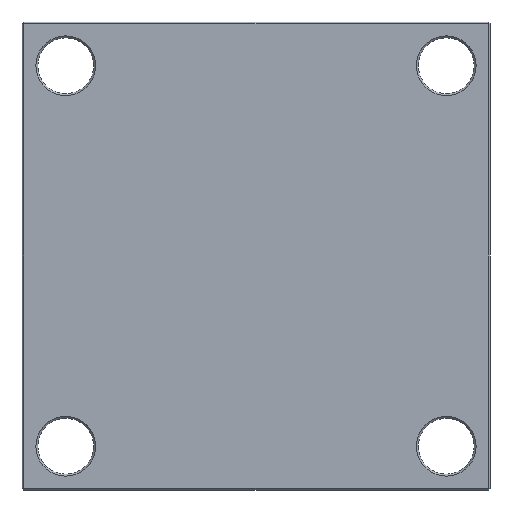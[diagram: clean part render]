
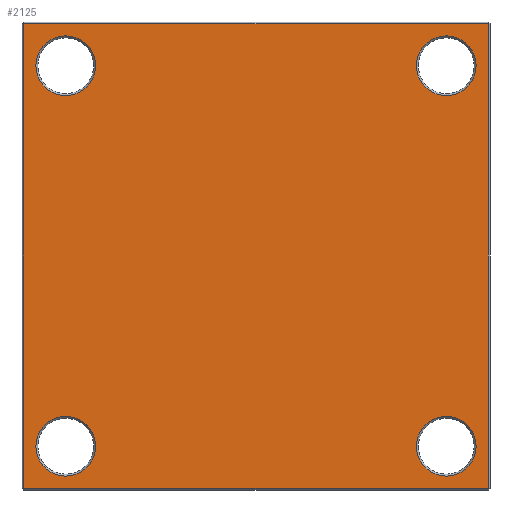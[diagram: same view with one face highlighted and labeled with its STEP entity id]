
A CAD part, front view. The second image highlights one B-rep face of the part: STEP entity #2125.
In plain terms, the highlighted planar face has unit normal (0, -1, 0).
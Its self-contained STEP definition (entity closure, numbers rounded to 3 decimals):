
#7 = EDGE_CURVE ( 'NONE', #1652, #507, #2072, .T. ) ;
#13 = EDGE_LOOP ( 'NONE', ( #623, #510, #930, #1219 ) ) ;
#46 = EDGE_LOOP ( 'NONE', ( #1112, #148 ) ) ;
#65 = EDGE_LOOP ( 'NONE', ( #178, #454 ) ) ;
#76 = EDGE_CURVE ( 'NONE', #750, #1811, #1716, .T. ) ;
#88 = AXIS2_PLACEMENT_3D ( 'NONE', #1628, #2049, #882 ) ;
#108 = CARTESIAN_POINT ( 'NONE',  ( -100., 0., 84.3 ) ) ;
#120 = EDGE_CURVE ( 'NONE', #946, #1653, #2100, .T. ) ;
#146 = VERTEX_POINT ( 'NONE', #555 ) ;
#148 = ORIENTED_EDGE ( 'NONE', *, *, #2068, .T. ) ;
#176 = DIRECTION ( 'NONE',  ( 0., 0., -1. ) ) ;
#178 = ORIENTED_EDGE ( 'NONE', *, *, #1960, .T. ) ;
#211 = CARTESIAN_POINT ( 'NONE',  ( 122., 0., 122. ) ) ;
#229 = DIRECTION ( 'NONE',  ( 0., 0., 1. ) ) ;
#260 = ORIENTED_EDGE ( 'NONE', *, *, #1631, .T. ) ;
#272 = CARTESIAN_POINT ( 'NONE',  ( 100., 0., -115.7 ) ) ;
#348 = CARTESIAN_POINT ( 'NONE',  ( 100., 0., 115.7 ) ) ;
#356 = CARTESIAN_POINT ( 'NONE',  ( -122., 0., 0. ) ) ;
#366 = ORIENTED_EDGE ( 'NONE', *, *, #924, .T. ) ;
#429 = CIRCLE ( 'NONE', #1497, 15.7 ) ;
#436 = CARTESIAN_POINT ( 'NONE',  ( 100., 0., 100. ) ) ;
#454 = ORIENTED_EDGE ( 'NONE', *, *, #2006, .T. ) ;
#457 = CARTESIAN_POINT ( 'NONE',  ( 122., 0., 0. ) ) ;
#458 = CARTESIAN_POINT ( 'NONE',  ( 0., 0., -122. ) ) ;
#474 = CIRCLE ( 'NONE', #1865, 15.7 ) ;
#482 = AXIS2_PLACEMENT_3D ( 'NONE', #1152, #1123, #1105 ) ;
#484 = AXIS2_PLACEMENT_3D ( 'NONE', #1515, #1400, #1035 ) ;
#507 = VERTEX_POINT ( 'NONE', #859 ) ;
#510 = ORIENTED_EDGE ( 'NONE', *, *, #1506, .T. ) ;
#512 = LINE ( 'NONE', #458, #1839 ) ;
#555 = CARTESIAN_POINT ( 'NONE',  ( -100., 0., -115.7 ) ) ;
#556 = FACE_OUTER_BOUND ( 'NONE', #13, .T. ) ;
#620 = DIRECTION ( 'NONE',  ( 0., 0., 1. ) ) ;
#623 = ORIENTED_EDGE ( 'NONE', *, *, #76, .T. ) ;
#667 = VECTOR ( 'NONE', #176, 1000. ) ;
#684 = AXIS2_PLACEMENT_3D ( 'NONE', #436, #1275, #1267 ) ;
#700 = ORIENTED_EDGE ( 'NONE', *, *, #120, .T. ) ;
#709 = CARTESIAN_POINT ( 'NONE',  ( 0., 0., 0. ) ) ;
#728 = DIRECTION ( 'NONE',  ( 0., 1., 0. ) ) ;
#750 = VERTEX_POINT ( 'NONE', #2155 ) ;
#775 = DIRECTION ( 'NONE',  ( 0., 1., 0. ) ) ;
#795 = CIRCLE ( 'NONE', #484, 15.7 ) ;
#809 = CARTESIAN_POINT ( 'NONE',  ( -100., 0., -100. ) ) ;
#824 = EDGE_CURVE ( 'NONE', #146, #1026, #1904, .T. ) ;
#847 = ORIENTED_EDGE ( 'NONE', *, *, #824, .T. ) ;
#859 = CARTESIAN_POINT ( 'NONE',  ( -100., 0., 115.7 ) ) ;
#882 = DIRECTION ( 'NONE',  ( 0., 0., 1. ) ) ;
#910 = EDGE_LOOP ( 'NONE', ( #700, #366 ) ) ;
#914 = DIRECTION ( 'NONE',  ( 0., 0., 1. ) ) ;
#924 = EDGE_CURVE ( 'NONE', #1653, #946, #1293, .T. ) ;
#930 = ORIENTED_EDGE ( 'NONE', *, *, #1228, .T. ) ;
#946 = VERTEX_POINT ( 'NONE', #1605 ) ;
#979 = FACE_BOUND ( 'NONE', #46, .T. ) ;
#984 = DIRECTION ( 'NONE',  ( 0., 0., 1. ) ) ;
#993 = DIRECTION ( 'NONE',  ( 0., 1., 0. ) ) ;
#1026 = VERTEX_POINT ( 'NONE', #1434 ) ;
#1031 = FACE_BOUND ( 'NONE', #65, .T. ) ;
#1035 = DIRECTION ( 'NONE',  ( 0., 0., 1. ) ) ;
#1070 = DIRECTION ( 'NONE',  ( 0., 1., 0. ) ) ;
#1105 = DIRECTION ( 'NONE',  ( 0., 0., 1. ) ) ;
#1107 = LINE ( 'NONE', #356, #667 ) ;
#1112 = ORIENTED_EDGE ( 'NONE', *, *, #7, .T. ) ;
#1123 = DIRECTION ( 'NONE',  ( 0., 1., 0. ) ) ;
#1152 = CARTESIAN_POINT ( 'NONE',  ( -100., 0., -100. ) ) ;
#1219 = ORIENTED_EDGE ( 'NONE', *, *, #2144, .T. ) ;
#1228 = EDGE_CURVE ( 'NONE', #1567, #2079, #1107, .T. ) ;
#1267 = DIRECTION ( 'NONE',  ( 0., 0., 1. ) ) ;
#1275 = DIRECTION ( 'NONE',  ( 0., 1., 0. ) ) ;
#1293 = CIRCLE ( 'NONE', #684, 15.7 ) ;
#1306 = CARTESIAN_POINT ( 'NONE',  ( -100., 0., 100. ) ) ;
#1384 = CARTESIAN_POINT ( 'NONE',  ( -122., 0., -122. ) ) ;
#1400 = DIRECTION ( 'NONE',  ( 0., 1., 0. ) ) ;
#1407 = VERTEX_POINT ( 'NONE', #272 ) ;
#1415 = DIRECTION ( 'NONE',  ( 0., 0., 1. ) ) ;
#1434 = CARTESIAN_POINT ( 'NONE',  ( -100., 0., -84.3 ) ) ;
#1439 = DIRECTION ( 'NONE',  ( -1., 0., 0. ) ) ;
#1443 = FACE_BOUND ( 'NONE', #910, .T. ) ;
#1497 = AXIS2_PLACEMENT_3D ( 'NONE', #1879, #1996, #229 ) ;
#1506 = EDGE_CURVE ( 'NONE', #1811, #1567, #2168, .T. ) ;
#1515 = CARTESIAN_POINT ( 'NONE',  ( 100., 0., -100. ) ) ;
#1549 = CIRCLE ( 'NONE', #1645, 15.7 ) ;
#1567 = VERTEX_POINT ( 'NONE', #2138 ) ;
#1605 = CARTESIAN_POINT ( 'NONE',  ( 100., 0., 84.3 ) ) ;
#1628 = CARTESIAN_POINT ( 'NONE',  ( 100., 0., 100. ) ) ;
#1631 = EDGE_CURVE ( 'NONE', #1026, #146, #474, .T. ) ;
#1645 = AXIS2_PLACEMENT_3D ( 'NONE', #1306, #993, #984 ) ;
#1652 = VERTEX_POINT ( 'NONE', #108 ) ;
#1653 = VERTEX_POINT ( 'NONE', #348 ) ;
#1659 = DIRECTION ( 'NONE',  ( 0., 0., 1. ) ) ;
#1665 = PLANE ( 'NONE',  #2133 ) ;
#1669 = VECTOR ( 'NONE', #1439, 1000. ) ;
#1716 = LINE ( 'NONE', #457, #2157 ) ;
#1811 = VERTEX_POINT ( 'NONE', #211 ) ;
#1839 = VECTOR ( 'NONE', #1921, 1000. ) ;
#1849 = CARTESIAN_POINT ( 'NONE',  ( 100., 0., -84.3 ) ) ;
#1865 = AXIS2_PLACEMENT_3D ( 'NONE', #809, #775, #620 ) ;
#1869 = CARTESIAN_POINT ( 'NONE',  ( -100., 0., 100. ) ) ;
#1879 = CARTESIAN_POINT ( 'NONE',  ( 100., 0., -100. ) ) ;
#1891 = FACE_BOUND ( 'NONE', #2135, .T. ) ;
#1904 = CIRCLE ( 'NONE', #482, 15.7 ) ;
#1921 = DIRECTION ( 'NONE',  ( 1., 0., 0. ) ) ;
#1933 = AXIS2_PLACEMENT_3D ( 'NONE', #1869, #1070, #914 ) ;
#1939 = CARTESIAN_POINT ( 'NONE',  ( 0., 0., 122. ) ) ;
#1958 = VERTEX_POINT ( 'NONE', #1849 ) ;
#1960 = EDGE_CURVE ( 'NONE', #1407, #1958, #429, .T. ) ;
#1996 = DIRECTION ( 'NONE',  ( 0., 1., 0. ) ) ;
#2006 = EDGE_CURVE ( 'NONE', #1958, #1407, #795, .T. ) ;
#2049 = DIRECTION ( 'NONE',  ( 0., 1., 0. ) ) ;
#2068 = EDGE_CURVE ( 'NONE', #507, #1652, #1549, .T. ) ;
#2072 = CIRCLE ( 'NONE', #1933, 15.7 ) ;
#2079 = VERTEX_POINT ( 'NONE', #1384 ) ;
#2100 = CIRCLE ( 'NONE', #88, 15.7 ) ;
#2125 = ADVANCED_FACE ( 'NONE', ( #1891, #1031, #1443, #979, #556 ), #1665, .F. ) ;
#2133 = AXIS2_PLACEMENT_3D ( 'NONE', #709, #728, #1659 ) ;
#2135 = EDGE_LOOP ( 'NONE', ( #847, #260 ) ) ;
#2138 = CARTESIAN_POINT ( 'NONE',  ( -122., 0., 122. ) ) ;
#2144 = EDGE_CURVE ( 'NONE', #2079, #750, #512, .T. ) ;
#2155 = CARTESIAN_POINT ( 'NONE',  ( 122., 0., -122. ) ) ;
#2157 = VECTOR ( 'NONE', #1415, 1000. ) ;
#2168 = LINE ( 'NONE', #1939, #1669 ) ;
